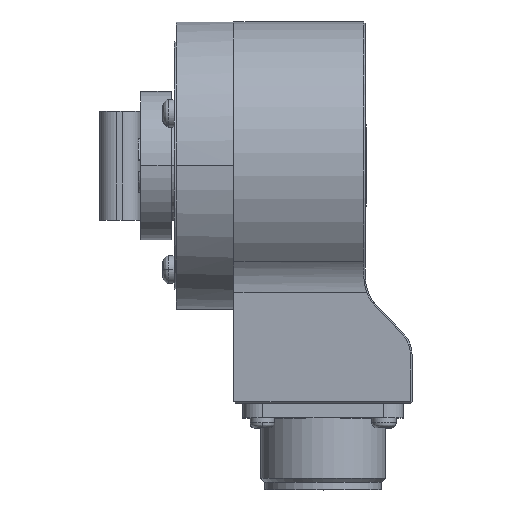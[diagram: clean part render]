
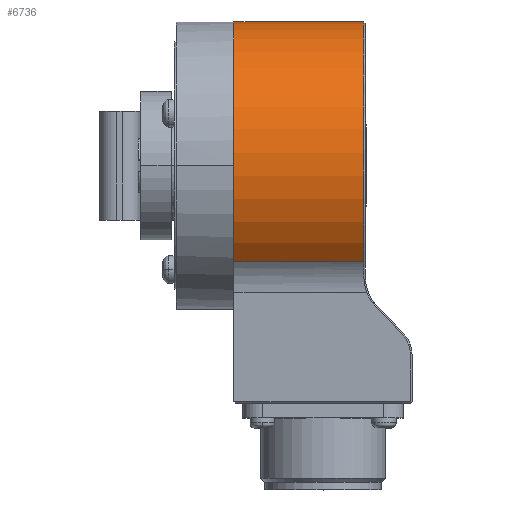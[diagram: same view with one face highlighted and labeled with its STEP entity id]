
A CAD part, top view. The second image highlights one B-rep face of the part: STEP entity #6736.
In plain terms, the highlighted cylindrical face has radius 29 mm (diameter 58 mm), a partial arc.
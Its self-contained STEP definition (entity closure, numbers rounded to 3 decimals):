
#202 = VERTEX_POINT ( 'NONE', #20170 ) ;
#294 = DIRECTION ( 'NONE',  ( 1., 0., 0. ) ) ;
#2606 = DIRECTION ( 'NONE',  ( -1., 0., 0. ) ) ;
#3077 = VERTEX_POINT ( 'NONE', #7799 ) ;
#3131 = CARTESIAN_POINT ( 'NONE',  ( 34.268, 6.004, 21.538 ) ) ;
#3794 = DIRECTION ( 'NONE',  ( 1., 0., 0. ) ) ;
#3870 = VERTEX_POINT ( 'NONE', #3131 ) ;
#4516 = LINE ( 'NONE', #11718, #7900 ) ;
#6736 = ADVANCED_FACE ( 'NONE', ( #11088 ), #9675, .T. ) ;
#7799 = CARTESIAN_POINT ( 'NONE',  ( 34.268, 54.423, 0. ) ) ;
#7900 = VECTOR ( 'NONE', #18855, 1000. ) ;
#9326 = CARTESIAN_POINT ( 'NONE',  ( 8.068, 6.004, 21.538 ) ) ;
#9455 = LINE ( 'NONE', #9326, #21171 ) ;
#9675 = CYLINDRICAL_SURFACE ( 'NONE', #10118, 29. ) ;
#10118 = AXIS2_PLACEMENT_3D ( 'NONE', #14947, #16826, #21979 ) ;
#11033 = DIRECTION ( 'NONE',  ( 0., 1., 0. ) ) ;
#11088 = FACE_OUTER_BOUND ( 'NONE', #19633, .T. ) ;
#11321 = ORIENTED_EDGE ( 'NONE', *, *, #17014, .T. ) ;
#11718 = CARTESIAN_POINT ( 'NONE',  ( 8.068, 54.423, 0. ) ) ;
#12826 = EDGE_CURVE ( 'NONE', #3870, #3077, #13210, .T. ) ;
#13210 = CIRCLE ( 'NONE', #14326, 29. ) ;
#14326 = AXIS2_PLACEMENT_3D ( 'NONE', #22611, #2606, #20849 ) ;
#14947 = CARTESIAN_POINT ( 'NONE',  ( 8.068, 25.423, 0. ) ) ;
#16352 = CARTESIAN_POINT ( 'NONE',  ( 8.068, 6.004, 21.538 ) ) ;
#16826 = DIRECTION ( 'NONE',  ( 1., 0., 0. ) ) ;
#17014 = EDGE_CURVE ( 'NONE', #20172, #3870, #9455, .T. ) ;
#18653 = ORIENTED_EDGE ( 'NONE', *, *, #12826, .T. ) ;
#18855 = DIRECTION ( 'NONE',  ( 1., 0., 0. ) ) ;
#19173 = CIRCLE ( 'NONE', #22166, 29. ) ;
#19633 = EDGE_LOOP ( 'NONE', ( #22988, #20918, #11321, #18653 ) ) ;
#19921 = CARTESIAN_POINT ( 'NONE',  ( 8.068, 25.423, 0. ) ) ;
#20170 = CARTESIAN_POINT ( 'NONE',  ( 8.068, 54.423, 0. ) ) ;
#20172 = VERTEX_POINT ( 'NONE', #16352 ) ;
#20849 = DIRECTION ( 'NONE',  ( 0., 1., 0. ) ) ;
#20918 = ORIENTED_EDGE ( 'NONE', *, *, #22864, .T. ) ;
#21171 = VECTOR ( 'NONE', #294, 1000. ) ;
#21979 = DIRECTION ( 'NONE',  ( 0., 1., 0. ) ) ;
#22166 = AXIS2_PLACEMENT_3D ( 'NONE', #19921, #3794, #11033 ) ;
#22611 = CARTESIAN_POINT ( 'NONE',  ( 34.268, 25.423, 0. ) ) ;
#22864 = EDGE_CURVE ( 'NONE', #202, #20172, #19173, .T. ) ;
#22988 = ORIENTED_EDGE ( 'NONE', *, *, #23201, .F. ) ;
#23201 = EDGE_CURVE ( 'NONE', #202, #3077, #4516, .T. ) ;
